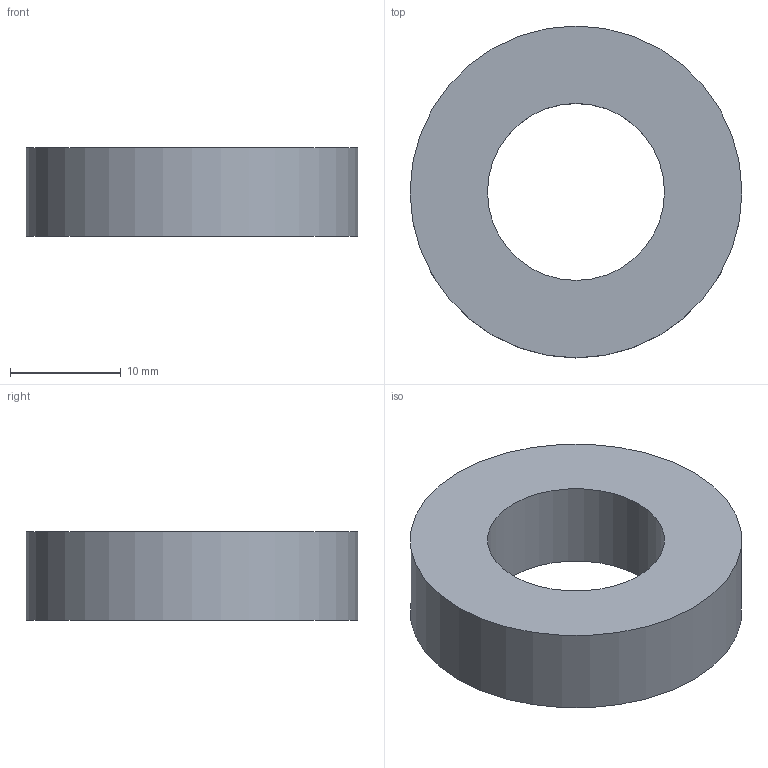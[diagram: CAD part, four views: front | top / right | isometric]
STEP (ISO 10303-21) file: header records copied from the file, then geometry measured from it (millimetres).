
FILE_DESCRIPTION(('Open CASCADE Model'),'2;1');
FILE_NAME('Open CASCADE Shape Model','2026-09-02T22:40:03',('Author'),( 'Open CASCADE'),'Open CASCADE STEP processor 7.8','Open CASCADE 7.8' ,'Unknown');
FILE_SCHEMA(('AUTOMOTIVE_DESIGN { 1 0 10303 214 1 1 1 1 }'));
Length unit declared in the file: millimetre
Products named in the file (1): Open CASCADE STEP translator 7.8 4
Bounding box: 30 x 30 x 8 mm (x, y, z)
Volume: 4046.4 mm3; surface area: 2167.7 mm2
Topology: 1 solids, 1 shells, 4 faces, 6 edges, 4 vertices
Faces by surface type: cylinder 2, plane 2
Full cylindrical faces by diameter (mm): 16 x1, 30 x1
Entity records: 186 total; most frequent: DIRECTION 32, CARTESIAN_POINT 27, ORIENTED_EDGE 12, PCURVE 12, DEFINITIONAL_REPRESENTATION 12, LINE 10, VECTOR 10, AXIS2_PLACEMENT_3D 9
